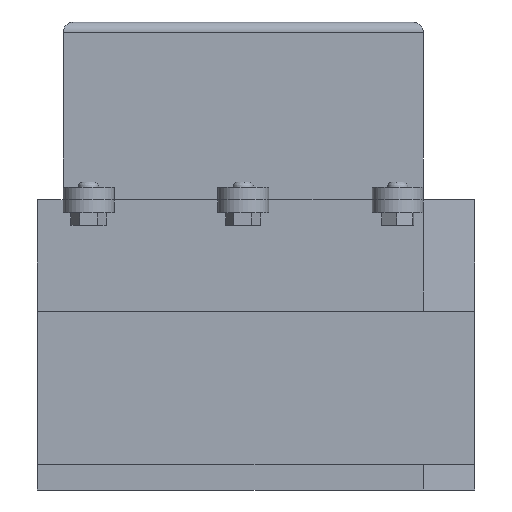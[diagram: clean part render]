
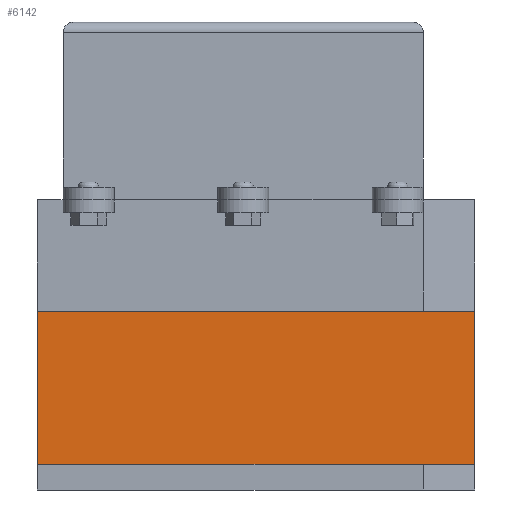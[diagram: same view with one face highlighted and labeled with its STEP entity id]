
A CAD part, front view. The second image highlights one B-rep face of the part: STEP entity #6142.
In plain terms, the highlighted planar face has unit normal (0, -1, 0).
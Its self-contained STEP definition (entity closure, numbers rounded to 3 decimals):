
#648=FACE_OUTER_BOUND('',#997,.T.);
#997=EDGE_LOOP('',(#5310,#5311,#5312,#5313));
#1520=LINE('',#10373,#2175);
#1559=LINE('',#10462,#2214);
#1575=LINE('',#10492,#2230);
#1614=LINE('',#10584,#2269);
#2175=VECTOR('',#7357,10.);
#2214=VECTOR('',#7418,10.);
#2230=VECTOR('',#7442,10.);
#2269=VECTOR('',#7549,10.);
#2806=VERTEX_POINT('',#10370);
#2807=VERTEX_POINT('',#10372);
#2846=VERTEX_POINT('',#10460);
#2856=VERTEX_POINT('',#10491);
#3610=EDGE_CURVE('',#2806,#2807,#1520,.T.);
#3655=EDGE_CURVE('',#2846,#2806,#1559,.T.);
#3671=EDGE_CURVE('',#2856,#2807,#1575,.T.);
#3716=EDGE_CURVE('',#2856,#2846,#1614,.T.);
#5310=ORIENTED_EDGE('',*,*,#3610,.F.);
#5311=ORIENTED_EDGE('',*,*,#3655,.F.);
#5312=ORIENTED_EDGE('',*,*,#3716,.F.);
#5313=ORIENTED_EDGE('',*,*,#3671,.T.);
#5789=PLANE('',#6456);
#6142=ADVANCED_FACE('',(#648),#5789,.F.);
#6456=AXIS2_PLACEMENT_3D('',#10583,#7547,#7548);
#7357=DIRECTION('',(0.,0.,-1.));
#7418=DIRECTION('',(1.,0.,0.));
#7442=DIRECTION('',(1.,0.,0.));
#7547=DIRECTION('center_axis',(0.,1.,0.));
#7548=DIRECTION('ref_axis',(0.,0.,1.));
#7549=DIRECTION('',(0.,0.,1.));
#10370=CARTESIAN_POINT('',(161.,30.,-43.5));
#10372=CARTESIAN_POINT('',(161.,30.,-103.5));
#10373=CARTESIAN_POINT('',(161.,30.,-51.75));
#10460=CARTESIAN_POINT('',(-10.,30.,-43.5));
#10462=CARTESIAN_POINT('',(-10.,30.,-43.5));
#10491=CARTESIAN_POINT('',(-10.,30.,-103.5));
#10492=CARTESIAN_POINT('',(-10.,30.,-103.5));
#10583=CARTESIAN_POINT('Origin',(-10.,30.,-103.5));
#10584=CARTESIAN_POINT('',(-10.,30.,-51.75));
